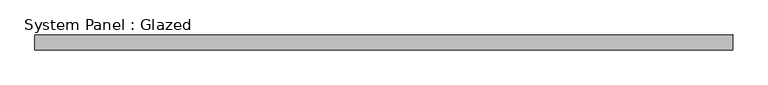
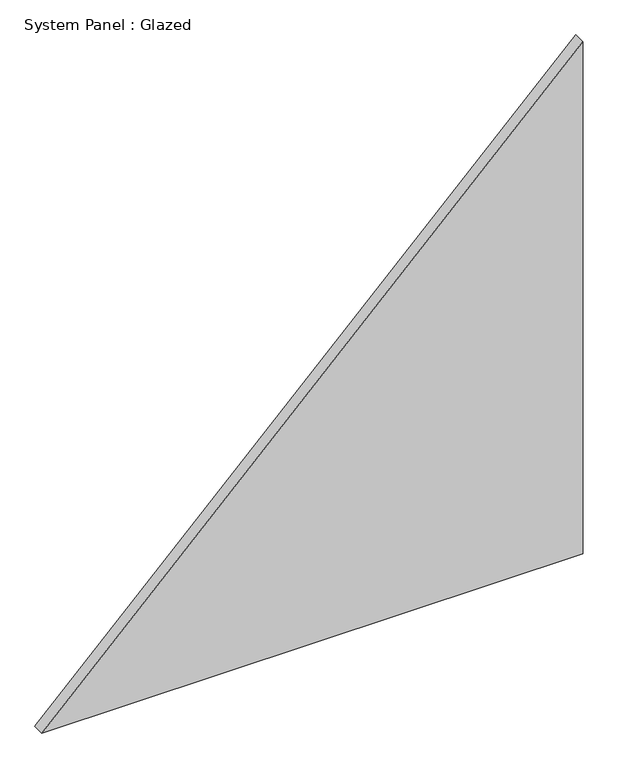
"""IFC4 building model written with IfcOpenShell, lengths in millimetres: plate geometry, System Panel : Glazed."""

from ifc_helpers import new_model, si_unit, frame, origin, place, context, project, spatial, polyline, outline, extrude, source, transform, mapped, element, save


def system_panel_glazed_ad263807(model_context):
    return source(origin(), model_context, "Body", "SweptSolid", [
        extrude(outline(polyline([(0.0, -575.0), (0.0, 575.0), (1150.0, 575.0), (0.0, -575.0)])), frame((0.0, -49.5, 0.0), z_axis=(0.0, 1.0, 0.0), x_axis=(0.0, 0.0, 1.0)), (0.0, 0.0, 1.0), 25.0),
    ])


if __name__ == "__main__":
    model = new_model("IFC4")
    model_context = context("Model", 3, world=origin())
    ifc_project = project(units=[si_unit("LENGTHUNIT", "METRE", prefix="MILLI")], contexts=[model_context])
    site = spatial("IfcSite", under=ifc_project)
    building = spatial("IfcBuilding", under=site)
    placement = place(None, origin())
    system_panel_glazed_shape = system_panel_glazed_ad263807(model_context)
    element("IfcPlate", 1, ObjectType="System Panel : Glazed", at=placement, inside=building, context=model_context, shape_type="MappedRepresentation", body=[
        mapped(system_panel_glazed_shape, transform((0.0, 0.0, 0.0), x_axis=(1.0, 0.0, 0.0), y_axis=(0.0, 1.0, 0.0), z_axis=(0.0, 0.0, 1.0))),
    ])
    save(model, "model.ifc")
